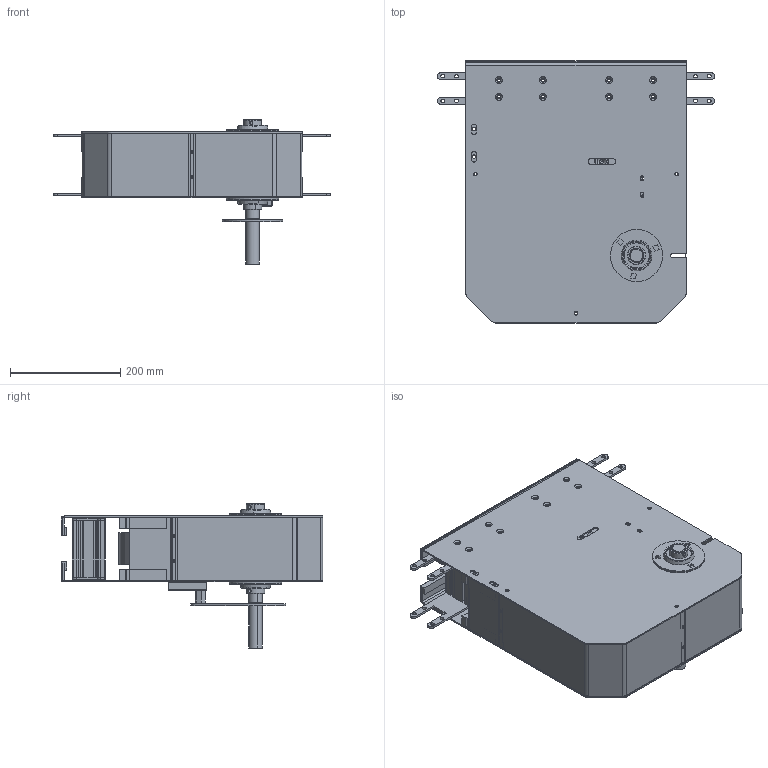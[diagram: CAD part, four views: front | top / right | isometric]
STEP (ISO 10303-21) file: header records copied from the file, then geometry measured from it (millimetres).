
FILE_DESCRIPTION (( 'STEP AP203' ), '1' );
FILE_NAME ('2000.450.949.STEP', '2015-04-15T14:13:23', ( '' ), ( '' ), 'SwSTEP 2.0', 'SolidWorks 2012', '' );
FILE_SCHEMA (( 'CONFIG_CONTROL_DESIGN' ));
Products named in the file (1): 2000.450.949
Bounding box: 503 x 475.5 x 263.5 mm (x, y, z)
Surface area: 1853689.6 mm2 (no closed solid volume)
Topology: 0 solids, 35 shells, 1770 faces, 4678 edges, 2995 vertices
Faces by surface type: plane 802, cylinder 706, torus 176, cone 70, bspline 16
Entity records: 56511 total; most frequent: CARTESIAN_POINT 10660, DIRECTION 9914, ORIENTED_EDGE 9336, EDGE_CURVE 4672, AXIS2_PLACEMENT_3D 3549, VERTEX_POINT 2995, VECTOR 2816, LINE 2816
